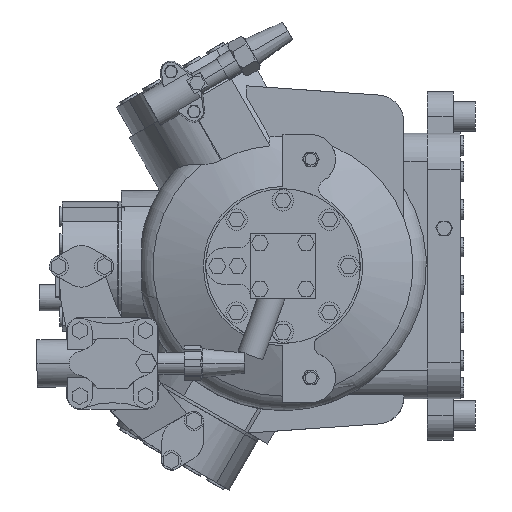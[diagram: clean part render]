
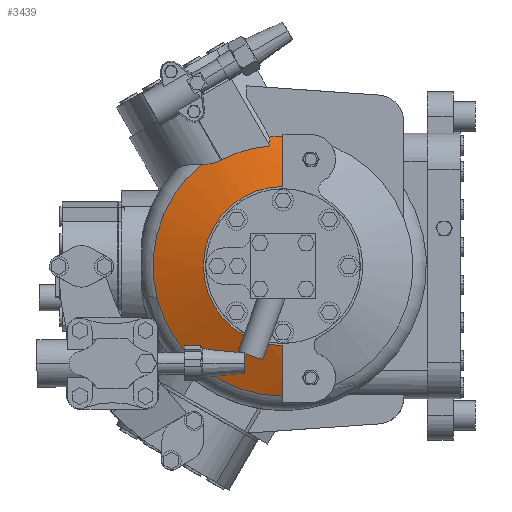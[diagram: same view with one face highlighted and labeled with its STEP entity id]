
A CAD part, left-side view. The second image highlights one B-rep face of the part: STEP entity #3439.
In plain terms, the highlighted spherical face has radius 279.4 mm.
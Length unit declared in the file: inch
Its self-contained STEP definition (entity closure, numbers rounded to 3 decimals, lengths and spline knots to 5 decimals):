
#16=CARTESIAN_POINT('',(-14.62331,0.,0.));
#17=DIRECTION('',(1.,0.,0.));
#18=DIRECTION('',(0.,0.,-1.));
#19=AXIS2_PLACEMENT_3D('',#16,#17,#18);
#25=CARTESIAN_POINT('',(-14.75984,2.35953,4.02917));
#26=CARTESIAN_POINT('',(-14.75989,2.35533,4.0315));
#27=CARTESIAN_POINT('',(-14.75997,2.34695,4.03619));
#28=CARTESIAN_POINT('',(-14.76,2.3386,4.04096));
#29=CARTESIAN_POINT('',(-14.76,2.33444,4.04336));
#34=CARTESIAN_POINT('',(-14.75697,0.15051,
-0.0869));
#35=DIRECTION('',(-1.,0.015,-0.009));
#36=DIRECTION('',(-0.008,0.076,0.997));
#37=AXIS2_PLACEMENT_3D('',#34,#35,#36);
#42=CARTESIAN_POINT('',(-10.72115,-5.12786,2.96057));
#43=DIRECTION('',(-0.707,-0.612,0.354));
#44=DIRECTION('',(-0.548,0.791,0.273));
#45=AXIS2_PLACEMENT_3D('',#42,#43,#44);
#134=CARTESIAN_POINT('',(-4.8,0.,0.));
#135=DIRECTION('',(0.,-1.,0.));
#136=DIRECTION('',(-0.894,0.,0.449));
#137=AXIS2_PLACEMENT_3D('',#134,#135,#136);
#170=CARTESIAN_POINT('',(-14.63,0.,0.));
#171=DIRECTION('',(-1.,0.,0.));
#172=DIRECTION('',(0.,0.,1.));
#173=AXIS2_PLACEMENT_3D('',#170,#171,#172);
#259=CARTESIAN_POINT('',(-15.37446,0.,0.));
#260=DIRECTION('',(1.,0.,0.));
#261=DIRECTION('',(0.,0.,-1.));
#262=AXIS2_PLACEMENT_3D('',#259,#260,#261);
#617=CARTESIAN_POINT('',(-4.8,0.,0.));
#618=DIRECTION('',(0.,1.,0.));
#619=DIRECTION('',(-0.893,0.,-0.45));
#620=AXIS2_PLACEMENT_3D('',#617,#618,#619);
#2662=CARTESIAN_POINT('',(-14.75984,2.35953,4.02917));
#2663=CARTESIAN_POINT('',(-14.75921,2.40938,4.00155));
#2664=CARTESIAN_POINT('',(-14.75302,2.51426,3.95299));
#2665=CARTESIAN_POINT('',(-14.72855,2.68495,3.9021));
#2666=CARTESIAN_POINT('',(-14.68745,2.87239,3.87318));
#2667=CARTESIAN_POINT('',(-14.64702,3.01074,3.87006));
#2668=CARTESIAN_POINT('',(-14.62331,3.08263,3.87297));
#3005=CARTESIAN_POINT('',(-14.79229,0.5033,
4.57174));
#3006=CARTESIAN_POINT('',(-14.76,2.33444,4.04336));
#3007=VERTEX_POINT('',#3005);
#3008=VERTEX_POINT('',#3006);
#3009=CARTESIAN_POINT('',(-14.63,0.51129,4.91016));
#3010=VERTEX_POINT('',#3009);
#3271=CARTESIAN_POINT('',(-14.75984,2.35953,4.02917));
#3272=VERTEX_POINT('',#3271);
#3273=VERTEX_POINT('',#2668);
#3290=CARTESIAN_POINT('',(-14.62331,0.,-4.95));
#3291=CARTESIAN_POINT('',(-15.37446,0.,-3.03));
#3292=VERTEX_POINT('',#3290);
#3293=VERTEX_POINT('',#3291);
#3311=CARTESIAN_POINT('',(-14.63,0.,4.93671));
#3312=CARTESIAN_POINT('',(-15.37446,0.,3.03));
#3313=VERTEX_POINT('',#3311);
#3314=VERTEX_POINT('',#3312);
#3414=CARTESIAN_POINT('',(-4.8,0.,0.));
#3415=DIRECTION('',(-1.,0.,0.));
#3416=DIRECTION('',(0.,1.,0.));
#3417=AXIS2_PLACEMENT_3D('',#3414,#3415,#3416);
#3418=SPHERICAL_SURFACE('',#3417,11.);
#3420=ORIENTED_EDGE('',*,*,#3419,.T.);
#3422=ORIENTED_EDGE('',*,*,#3421,.F.);
#3424=ORIENTED_EDGE('',*,*,#3423,.F.);
#3426=ORIENTED_EDGE('',*,*,#3425,.T.);
#3428=ORIENTED_EDGE('',*,*,#3427,.F.);
#3430=ORIENTED_EDGE('',*,*,#3429,.T.);
#3432=ORIENTED_EDGE('',*,*,#3431,.F.);
#3434=ORIENTED_EDGE('',*,*,#3433,.F.);
#3436=ORIENTED_EDGE('',*,*,#3435,.F.);
#3437=EDGE_LOOP('',(#3420,#3422,#3424,#3426,#3428,#3430,#3432,#3434,#3436));
#3438=FACE_OUTER_BOUND('',#3437,.F.);
#3439=ADVANCED_FACE('',(#3438),#3418,.T.);
#20=CIRCLE('',#19,4.95);
#30=B_SPLINE_CURVE_WITH_KNOTS('',3,(#25,#26,#27,#28,#29),.UNSPECIFIED.,.F.,.F.,(
4,1,4),(0.,0.5,1.),.UNSPECIFIED.);
#38=CIRCLE('',#37,4.67211);
#46=CIRCLE('',#45,7.13303);
#138=CIRCLE('',#137,11.);
#174=CIRCLE('',#173,4.93671);
#263=CIRCLE('',#262,3.03);
#621=CIRCLE('',#620,11.);
#2669=B_SPLINE_CURVE_WITH_KNOTS('',3,(#2662,#2663,#2664,#2665,#2666,#2667,
#2668),.UNSPECIFIED.,.F.,.F.,(4,1,1,1,4),(0.,0.25,0.5,0.75,1.),
.UNSPECIFIED.);
#3419=EDGE_CURVE('',#3313,#3314,#138,.T.);
#3421=EDGE_CURVE('',#3293,#3314,#263,.T.);
#3423=EDGE_CURVE('',#3292,#3293,#621,.T.);
#3425=EDGE_CURVE('',#3292,#3273,#20,.T.);
#3427=EDGE_CURVE('',#3272,#3273,#2669,.T.);
#3429=EDGE_CURVE('',#3272,#3008,#30,.T.);
#3431=EDGE_CURVE('',#3007,#3008,#38,.T.);
#3433=EDGE_CURVE('',#3010,#3007,#46,.T.);
#3435=EDGE_CURVE('',#3313,#3010,#174,.T.);
